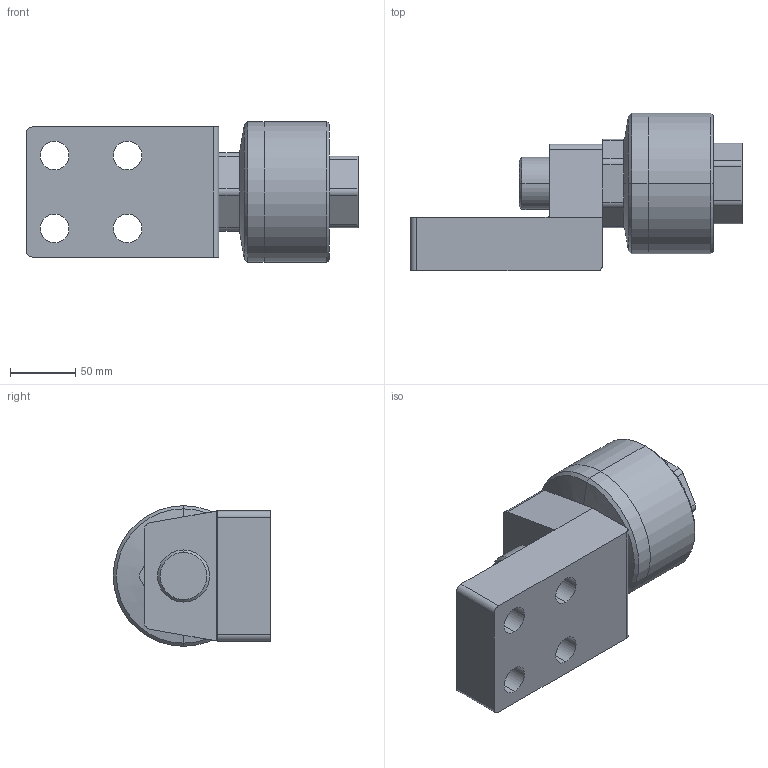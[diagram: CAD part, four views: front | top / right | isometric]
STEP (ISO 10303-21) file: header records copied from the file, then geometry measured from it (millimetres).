
FILE_DESCRIPTION (( 'STEP AP203' ), '1' );
FILE_NAME ('FCM40-1.5-L.STEP', '2016-04-14T02:01:54', ( '' ), ( '' ), 'SwSTEP 2.0', 'SolidWorks 2014', '' );
FILE_SCHEMA (( 'CONFIG_CONTROL_DESIGN' ));
Length unit declared in the file: millimetre
Products named in the file (3): FCM40-1.5; FCM40-1.5-L; FCM40-L
Assembly tree (2 placements, depth 2):
  FCM40-1.5-L
    FCM40-1.5
    FCM40-L
Bounding box: 255 x 121 x 108 mm (x, y, z)
Volume: 1469475.7 mm3; surface area: 133018.7 mm2
Topology: 2 solids, 2 shells, 77 faces, 190 edges, 120 vertices
Faces by surface type: cylinder 36, plane 33, cone 8
Entity records: 2609 total; most frequent: DIRECTION 432, CARTESIAN_POINT 398, ORIENTED_EDGE 380, EDGE_CURVE 190, AXIS2_PLACEMENT_3D 162, VERTEX_POINT 120, LINE 108, VECTOR 108
